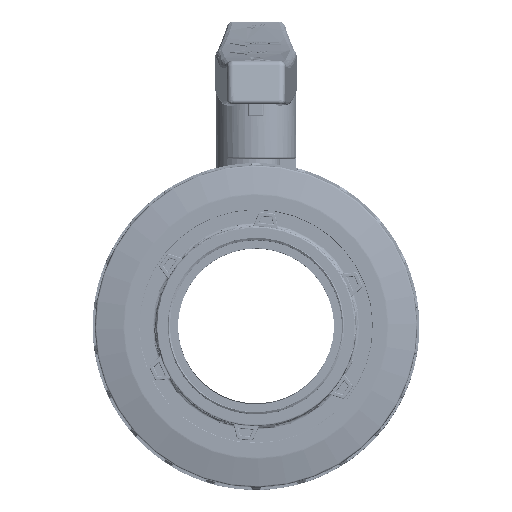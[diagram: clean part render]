
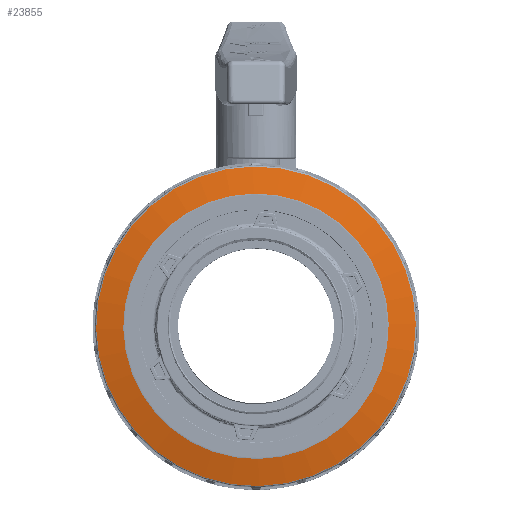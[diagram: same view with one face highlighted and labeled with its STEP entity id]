
A CAD part, top view. The second image highlights one B-rep face of the part: STEP entity #23855.
In plain terms, the highlighted conical face has half-angle 78 degrees and reference radius 93.75 mm.
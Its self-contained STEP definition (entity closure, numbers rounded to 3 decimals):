
#306=CONICAL_SURFACE('',#25742,93.75,1.361);
#672=FACE_BOUND('',#4849,.T.);
#1600=CIRCLE('',#25741,84.911);
#1601=CIRCLE('',#25743,102.208);
#3263=FACE_OUTER_BOUND('',#4848,.T.);
#4848=EDGE_LOOP('',(#18219));
#4849=EDGE_LOOP('',(#18220));
#10722=VERTEX_POINT('',#59860);
#10723=VERTEX_POINT('',#59863);
#13428=EDGE_CURVE('',#10722,#10722,#1600,.T.);
#13429=EDGE_CURVE('',#10723,#10723,#1601,.T.);
#18219=ORIENTED_EDGE('',*,*,#13429,.F.);
#18220=ORIENTED_EDGE('',*,*,#13428,.F.);
#23855=ADVANCED_FACE('',(#3263,#672),#306,.T.);
#25741=AXIS2_PLACEMENT_3D('',#59861,#29792,#29793);
#25742=AXIS2_PLACEMENT_3D('',#59862,#29794,#29795);
#25743=AXIS2_PLACEMENT_3D('',#59864,#29796,#29797);
#29792=DIRECTION('center_axis',(-1.,0.,0.));
#29793=DIRECTION('ref_axis',(0.,-1.,0.));
#29794=DIRECTION('center_axis',(1.,0.,0.));
#29795=DIRECTION('ref_axis',(0.,1.,0.));
#29796=DIRECTION('center_axis',(1.,0.,0.));
#29797=DIRECTION('ref_axis',(0.,-1.,0.));
#59860=CARTESIAN_POINT('',(0.087,84.911,0.));
#59861=CARTESIAN_POINT('Origin',(0.087,0.,0.));
#59862=CARTESIAN_POINT('Origin',(1.966,0.,0.));
#59863=CARTESIAN_POINT('',(3.764,102.208,0.));
#59864=CARTESIAN_POINT('Origin',(3.764,0.,0.));
